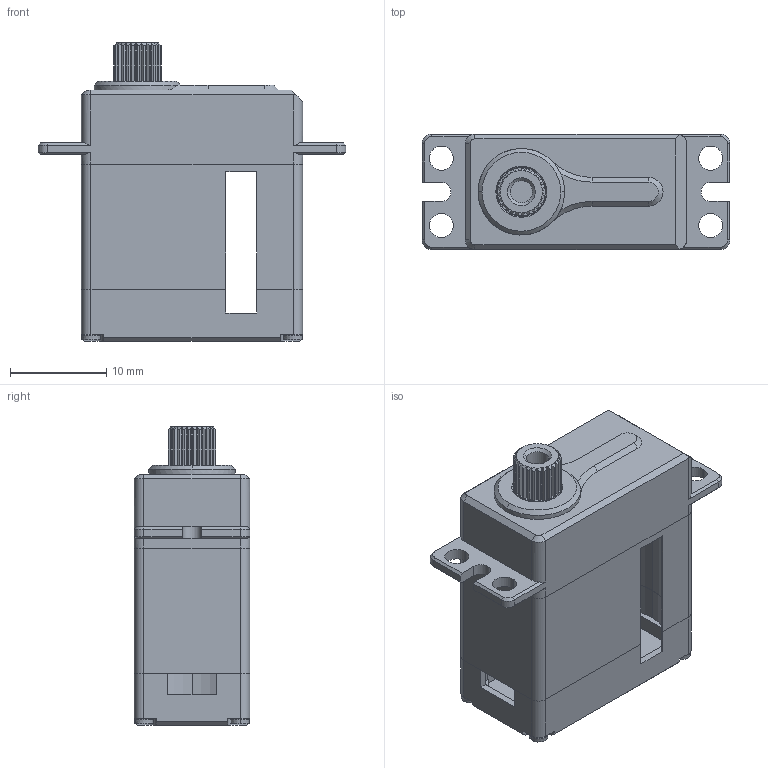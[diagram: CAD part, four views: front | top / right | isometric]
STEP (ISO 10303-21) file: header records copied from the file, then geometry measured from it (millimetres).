
FILE_DESCRIPTION (( 'STEP AP214' ), '1' );
FILE_NAME ('MS325 V6.0_DM.STEP', '2021-11-17T09:07:53', ( '微软用户' ), ( '微软中国' ), 'SwSTEP 2.0', 'SolidWorks 2016', '' );
FILE_SCHEMA (( 'AUTOMOTIVE_DESIGN' ));
Length unit declared in the file: millimetre
Products named in the file (1): MS325 V6.0_DM
Bounding box: 32 x 12 x 31 mm (x, y, z)
Surface area: 3933.8 mm2 (no closed solid volume)
Topology: 0 solids, 13 shells, 388 faces, 1117 edges, 743 vertices
Faces by surface type: plane 210, cylinder 117, cone 53, torus 8
Entity records: 17039 total; most frequent: CARTESIAN_POINT 2445, DIRECTION 2201, ORIENTED_EDGE 2071, EDGE_CURVE 1117, AXIS2_PLACEMENT_3D 759, VERTEX_POINT 743, VECTOR 683, LINE 683
